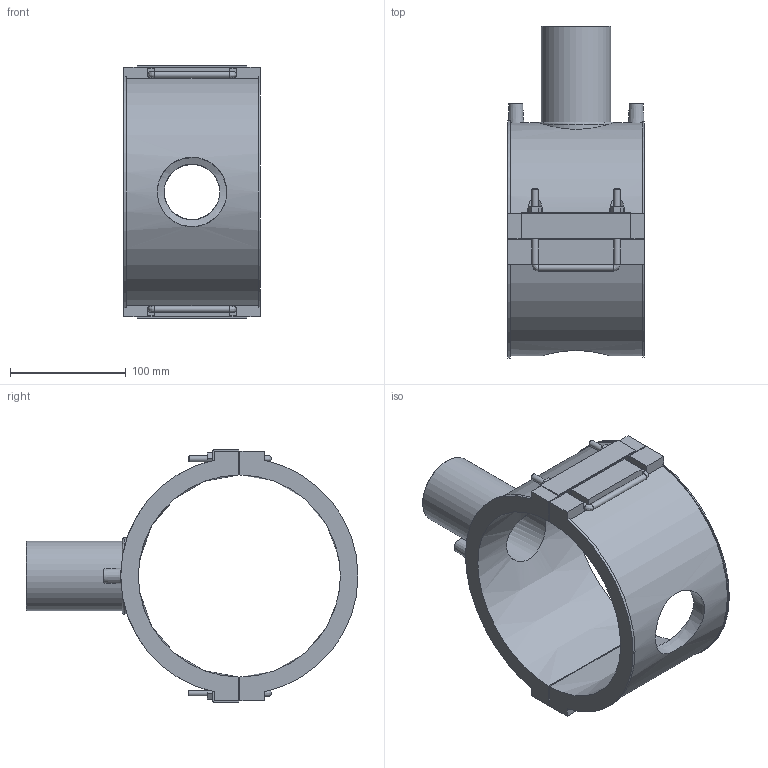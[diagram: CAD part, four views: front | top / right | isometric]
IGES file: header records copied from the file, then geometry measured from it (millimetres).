
Global section: file name: 5958DB03060020.ipt; native system: Autodesk Inventor 2019; preprocessor: unknown; author: KIM; date: 20210830.101317; units: inch
Bounding box: 118.11 x 286.74 x 217.9 mm (x, y, z)
Volume: 1053608.8 mm3; surface area: 217931.1 mm2
Topology: 4 solids, 4 shells, 170 faces, 435 edges, 285 vertices
Faces by surface type: plane 117, revolution 27, cylinder 21, cone 5
Full cylindrical faces by diameter (mm): 4 x2, 4.2 x2, 5.4 x6, 60.1 x1
